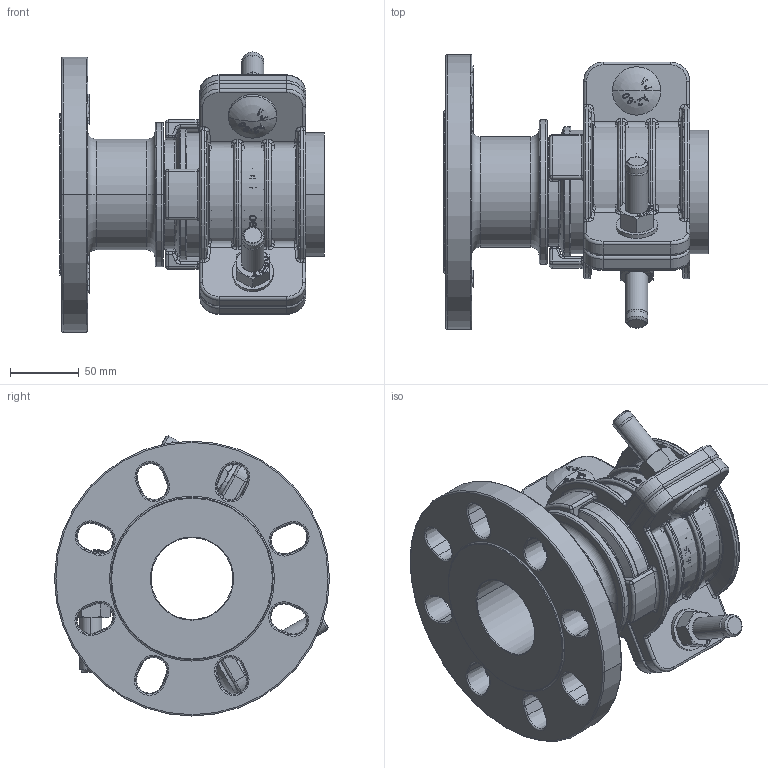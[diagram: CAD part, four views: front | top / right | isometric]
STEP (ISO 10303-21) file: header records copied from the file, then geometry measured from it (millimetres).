
FILE_DESCRIPTION((''),'2;1');
FILE_NAME('13643_4_ASM','2022-05-26T15:07:31',('mfairey'),('Glynwed Pipe Systems'),'CREO PARAMETRIC BY PTC INC, 2020454','CREO PARAMETRIC BY PTC INC, 2020454','');
FILE_SCHEMA(('CONFIG_CONTROL_DESIGN'));
Products named in the file (8): 13636_MACHINED_4; 13638_1; 12568_7; 10467_4; 10493_6; 7896_10; PE_90_SDR17; 13643_4_ASM
Assembly tree (17 placements, depth 2):
  13643_4_ASM
    13636_MACHINED_4
    13638_1  x3
    12568_7  x3
    10467_4  x3
    10493_6  x3
    7896_10  x3
    PE_90_SDR17
Bounding box: 192.34 x 200 x 203.77 mm (x, y, z)
Volume: 1450964.5 mm3; surface area: 419656.7 mm2
Topology: 17 solids, 29 shells, 4508 faces, 12177 edges, 7865 vertices
Faces by surface type: plane 3382, cylinder 421, torus 293, bspline 192, cone 139, sphere 81
Entity records: 79575 total; most frequent: CARTESIAN_POINT 19022, ORIENTED_EDGE 13126, DIRECTION 11738, EDGE_CURVE 6571, VECTOR 4652, LINE 4652, VERTEX_POINT 4263, AXIS2_PLACEMENT_3D 3543
